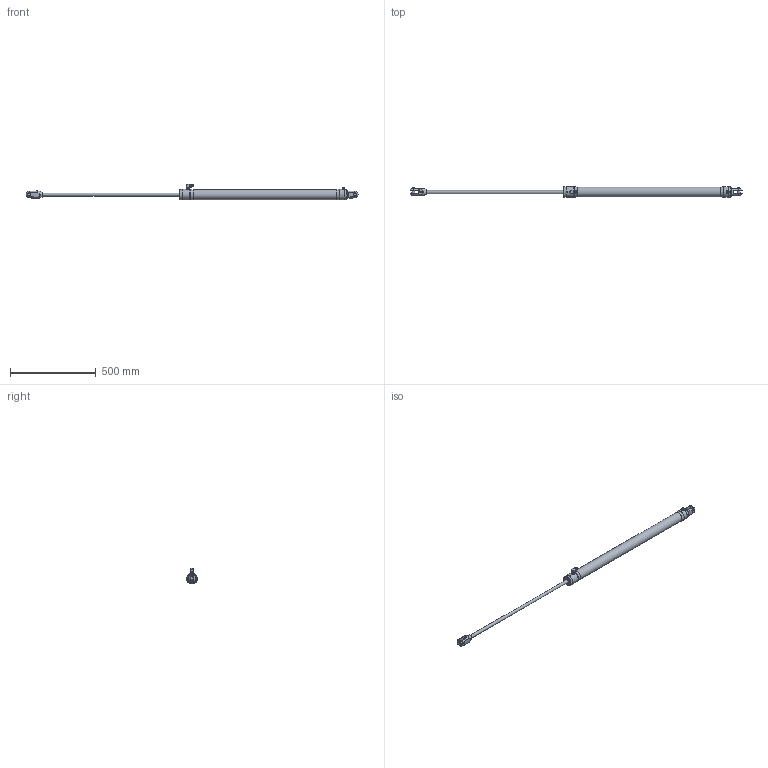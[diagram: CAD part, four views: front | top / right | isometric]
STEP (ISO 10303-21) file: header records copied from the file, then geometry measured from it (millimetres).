
FILE_DESCRIPTION(/* description */ (''),/* implementation_level */ '2;1');
FILE_NAME(/* name */ 'Q:\AA BRAND HYDRAULICS\HYDRAULICS FAMILY DIRECTORY\HYDRAULICS\CYLINDERS\RAMS\ALUMINIUM - STANDARD SINGLE ACTING (-0006 To -0260)\RSA-0017-S0800-NP-71\RSA-0017-S0800-NP-71 (Open).stp',/* time_stamp */ '2017-11-30T10:39:20+00:00',/* author */ ('Lorena'),/* organization */ (''),/* preprocessor_version */ 'ST-DEVELOPER v16.13',/* originating_system */ 'Autodesk Inventor 2018',/* authorisation */ '');
FILE_SCHEMA (('AUTOMOTIVE_DESIGN { 1 0 10303 214 3 1 1 }'));
Products named in the file (1): RSA-0017-S0800-NP-71 (Open)
Bounding box: 1941.65 x 61.4 x 92.2 mm (x, y, z)
Volume: 3021709 mm3; surface area: 268452.2 mm2
Topology: 1 solids, 4 shells, 1605 faces, 4249 edges, 2801 vertices
Faces by surface type: plane 886, bspline 572, cylinder 80, cone 58, torus 5, sphere 4
Full cylindrical faces by diameter (mm): 4 x1, 4.4 x1, 5 x1, 5.1 x1, 6 x2, 6.6 x2, 7 x1, 9 x1, 10 x2, 11.11 x1, 11.157 x1, 11.8 x1, 12 x3, 12.157 x1, 13 x1, 13.157 x2, 14.5 x2, 15.88 x2, 18 x1, 18.3 x2, 19.85 x2, 34 x1, 58.4 x1, 61.4 x4
Entity records: 56218 total; most frequent: CARTESIAN_POINT 19214, ORIENTED_EDGE 8250, DIRECTION 5246, EDGE_CURVE 4125, VERTEX_POINT 2764, LINE 2652, VECTOR 2652, EDGE_LOOP 1844
